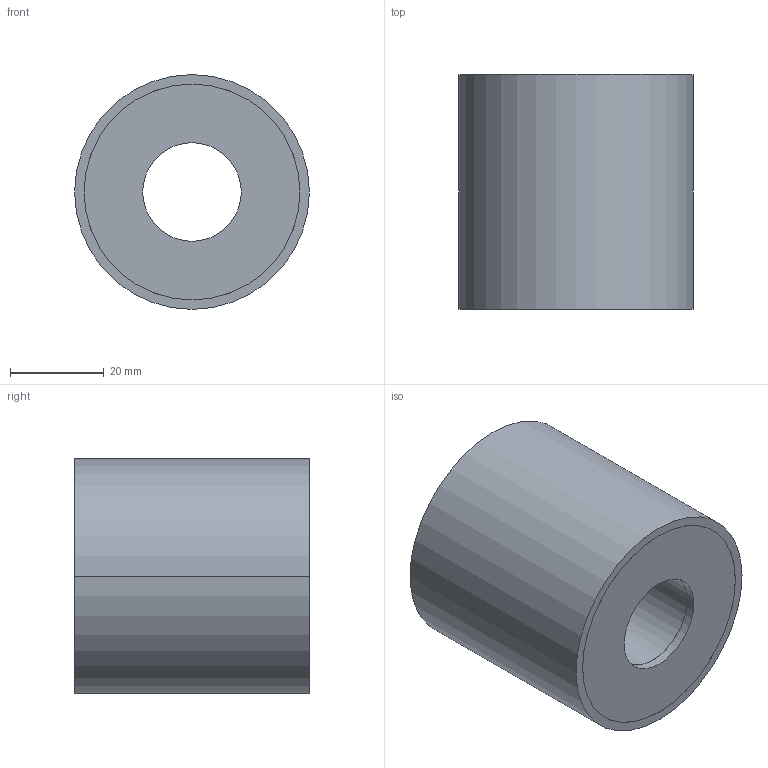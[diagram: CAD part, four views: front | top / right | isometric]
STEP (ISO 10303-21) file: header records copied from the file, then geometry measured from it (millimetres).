
FILE_DESCRIPTION (( 'STEP AP214' ), '1' );
FILE_NAME ('351-50-50-21-DD-40.step', '2025-07-23T10:15:02', ( '' ), ( '' ), 'SwSTEP 2.0', 'SolidWorks 2022', '' );
FILE_SCHEMA (( 'AUTOMOTIVE_DESIGN' ));
Length unit declared in the file: millimetre
Products named in the file (1): 351-50-50-21-DD-40
Bounding box: 50 x 50 x 50 mm (x, y, z)
Volume: 80856.7 mm3; surface area: 14395.3 mm2
Topology: 1 solids, 1 shells, 30 faces, 60 edges, 40 vertices
Faces by surface type: cylinder 20, plane 10
Entity records: 919 total; most frequent: DIRECTION 162, CARTESIAN_POINT 131, ORIENTED_EDGE 120, AXIS2_PLACEMENT_3D 71, EDGE_CURVE 60, CIRCLE 40, EDGE_LOOP 40, VERTEX_POINT 40
